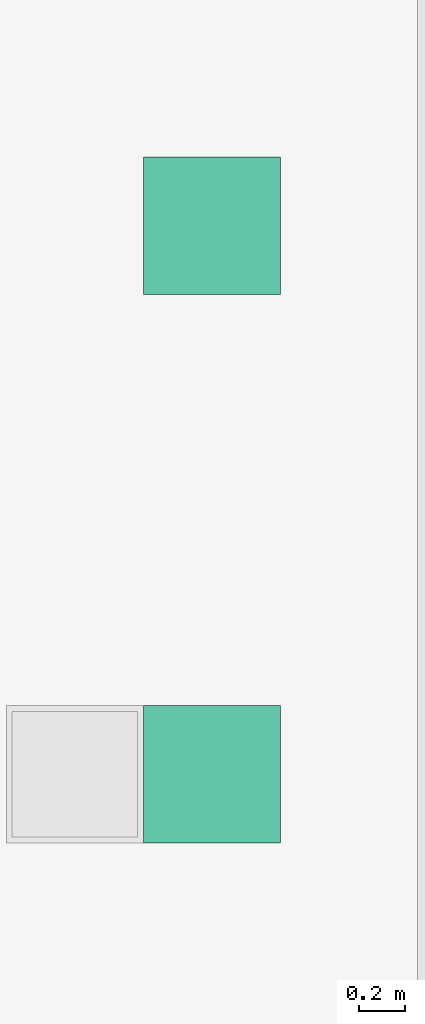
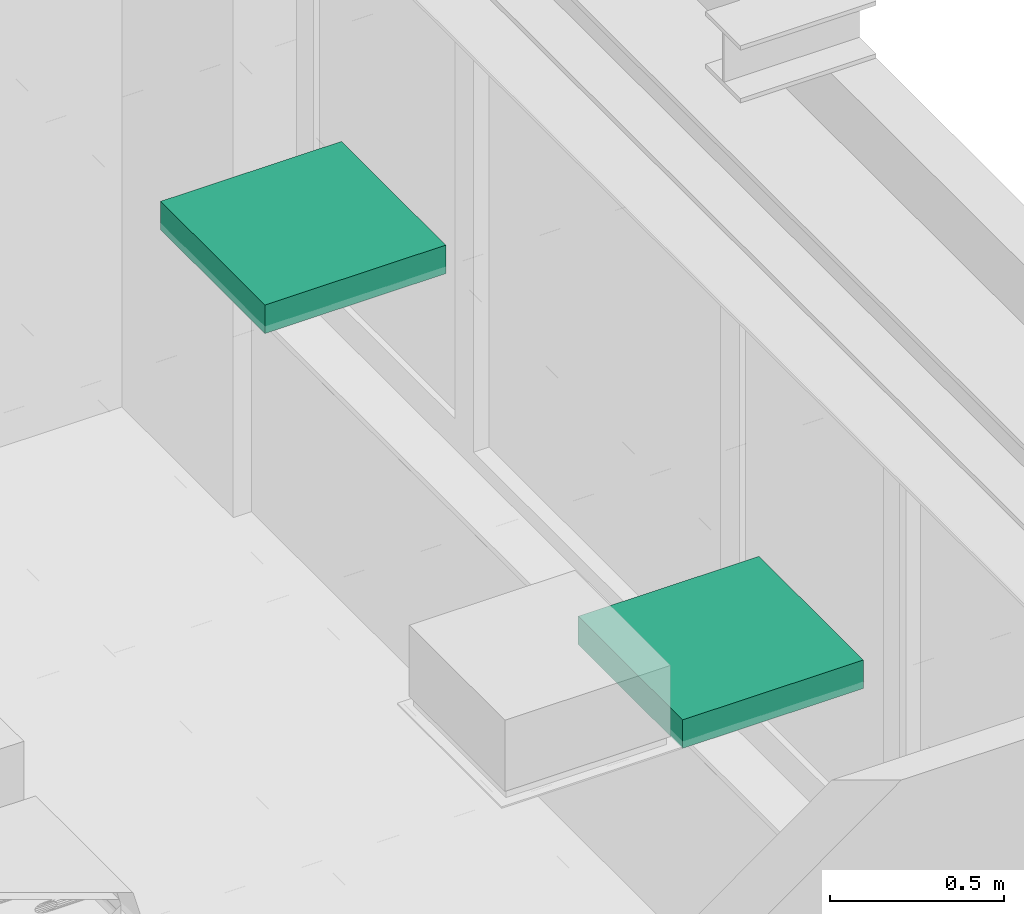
# One storey, part 298 of 347: 2 flow terminals.
"""IFC2X3 building model written with IfcOpenShell, lengths in millimetres."""

import ifcopenshell
import ifcopenshell.guid

model = None  # the IFC model being written
_history = None  # IfcOwnerHistory: only IFC2X3 demands one
_inside = {}  # id of a spatial element -> (the spatial element, [elements in it])
_under = {}  # id of a project, library or spatial element -> (it, [spatial elements below it])
_declared = {}  # id of a project -> (the project, [libraries it declares])
_typed = {}  # id of a type object -> (the type object, [elements of that type])
_made_of = {}  # id of a material, layer set ... -> (it, [elements and type objects made of it])


def new_model(schema):
    """Start an empty IFC model of exactly this schema.

    Asked for "IFC4X3", IfcOpenShell would pick the latest addendum, in which some entities
    have other attributes; the version numbers below select the first issue.
    IFC2X3 requires an IfcOwnerHistory on every rooted entity: one is made here for all.
    """
    global model, _history
    if schema == "IFC4X3":
        model = ifcopenshell.file(schema_version=(4, 3, 0, 0))
    else:
        model = ifcopenshell.file(schema=schema)
    _inside.clear()
    _under.clear()
    _declared.clear()
    _typed.clear()
    _made_of.clear()
    _history = None
    if model.schema == "IFC2X3":
        org = make("IfcOrganization", Name="unknown")
        user = make(
            "IfcPersonAndOrganization",
            ThePerson=make("IfcPerson", FamilyName="unknown"),
            TheOrganization=org,
        )
        app = make(
            "IfcApplication",
            ApplicationDeveloper=org,
            Version="unknown",
            ApplicationFullName="unknown",
            ApplicationIdentifier="unknown",
        )
        _history = make(
            "IfcOwnerHistory",
            OwningUser=user,
            OwningApplication=app,
            ChangeAction="ADDED",
            CreationDate=0,
        )
    return model


def make(cls, **values):
    """One entity of the class cls with the attributes given. An attribute that is None is left unset."""
    return model.create_entity(
        cls, **{name: value for name, value in values.items() if value is not None}
    )


def entity(cls, *values):
    """Any entity or typed value of the class cls, its attributes in the order of the schema. None: left unset."""
    e = model.create_entity(cls)
    for i, value in enumerate(values):
        if value is not None:
            e[i] = value
    return e


def rooted(cls, **values):
    """An entity with a GlobalId (a new one), such as an element, a storey or a relation."""
    return make(cls, GlobalId=ifcopenshell.guid.new(), OwnerHistory=_history, **values)


def si_unit(unit_type, name, prefix=None):
    """IfcSIUnit, for example si_unit("LENGTHUNIT", "METRE", prefix="MILLI")."""
    return make("IfcSIUnit", UnitType=unit_type, Prefix=prefix, Name=name)


def converted_unit(unit_type, name, factor, base, dimensions=None, offset=None):
    """IfcConversionBasedUnit, such as the inch: factor (a typed value) times the base unit."""
    return make(
        "IfcConversionBasedUnit"
        if offset is None
        else "IfcConversionBasedUnitWithOffset",
        ConversionOffset=offset,
        Dimensions=None
        if dimensions is None
        else entity("IfcDimensionalExponents", *dimensions),
        UnitType=unit_type,
        Name=name,
        ConversionFactor=make(
            "IfcMeasureWithUnit", ValueComponent=factor, UnitComponent=base
        ),
    )


def derived_unit(unit_type, elements):
    """IfcDerivedUnit: a product of units, each with its exponent."""
    return make(
        "IfcDerivedUnit",
        Elements=[
            make("IfcDerivedUnitElement", Unit=unit, Exponent=power)
            for unit, power in elements
        ],
        UnitType=unit_type,
    )


def money_unit(currency):
    """IfcMonetaryUnit."""
    return make("IfcMonetaryUnit", Currency=currency)


def assignment(units):
    """IfcUnitAssignment: the units of a project."""
    return None if units is None else make("IfcUnitAssignment", Units=units)


def point(xyz):
    """IfcCartesianPoint."""
    return None if xyz is None else make("IfcCartesianPoint", Coordinates=xyz)


def direction(xyz):
    """IfcDirection."""
    return None if xyz is None else make("IfcDirection", DirectionRatios=xyz)


def frame(location, z_axis=None, x_axis=None):
    """IfcAxis2Placement3D, a coordinate frame: its origin and axes. An axis left out is left unset."""
    return make(
        "IfcAxis2Placement3D",
        Location=point(location),
        Axis=direction(z_axis),
        RefDirection=direction(x_axis),
    )


def origin_with_axes():
    """The frame at (0, 0, 0) with the z axis (0, 0, 1) and the x axis (1, 0, 0) written out."""
    return frame((0.0, 0.0, 0.0), z_axis=(0.0, 0.0, 1.0), x_axis=(1.0, 0.0, 0.0))


def place(relative_to, where):
    """IfcLocalPlacement: puts the frame where relative to a parent placement (None: the world)."""
    return make(
        "IfcLocalPlacement", PlacementRelTo=relative_to, RelativePlacement=where
    )


def context(
    kind, dimensions, precision=None, world=None, true_north=None, identifier=None
):
    """IfcGeometricRepresentationContext, for example the 3D "Model" context."""
    return make(
        "IfcGeometricRepresentationContext",
        ContextIdentifier=identifier,
        ContextType=kind,
        CoordinateSpaceDimension=dimensions,
        Precision=precision,
        WorldCoordinateSystem=world,
        TrueNorth=true_north,
    )


def subcontext(parent, identifier, kind, view, scale=None):
    """IfcGeometricRepresentationSubContext, for example "Body" below "Model"."""
    return make(
        "IfcGeometricRepresentationSubContext",
        ContextIdentifier=identifier,
        ContextType=kind,
        ParentContext=parent,
        TargetScale=scale,
        TargetView=view,
    )


def project(units=None, contexts=None):
    """IfcProject with its units and contexts."""
    return rooted(
        "IfcProject",
        Name="project",
        RepresentationContexts=contexts,
        UnitsInContext=assignment(units),
    )


def spatial(cls, under=None, at=None, **own):
    """A site, building, storey or space (cls), placed at a placement, below another one or the project."""
    s = rooted(cls, ObjectPlacement=at, **own)
    if under is not None:
        _under.setdefault(under.id(), (under, []))[1].append(s)
    return s


def faces_of(points, faces, orient=None, outer=None):
    """IfcFace entities. A face is a list of loops; a loop is a list of indices into points, from 0.

    orient and outer hold one flag for each loop. By default every Orientation is true, the
    first loop of a face is its IfcFaceOuterBound and the others are IfcFaceBound.
    """
    made = []
    for i, loops in enumerate(faces):
        bounds = []
        for j, loop in enumerate(loops):
            is_outer = j == 0 if outer is None else outer[i][j]
            bounds.append(
                make(
                    "IfcFaceOuterBound" if is_outer else "IfcFaceBound",
                    Bound=make("IfcPolyLoop", Polygon=[points[k] for k in loop]),
                    Orientation=True if orient is None else orient[i][j],
                )
            )
        made.append(make("IfcFace", Bounds=bounds))
    return made


def open_shell(faces, orient=None, outer=None):
    """The faces of one IfcOpenShell. surface_model builds it on its shared points."""
    return ("IfcOpenShell", faces, orient, outer)


def faceted_brep(points, faces, orient=None, outer=None, voids=None):
    """IfcFacetedBrep: a solid bounded by flat faces; with voids (closed shells), ...WithVoids."""
    shared = [point(p) for p in points]
    hull = make("IfcClosedShell", CfsFaces=faces_of(shared, faces, orient, outer))
    if voids is None:
        return make("IfcFacetedBrep", Outer=hull)
    return make(
        "IfcFacetedBrepWithVoids",
        Outer=hull,
        Voids=[
            make(cls, CfsFaces=faces_of(shared, fs, o, b)) for cls, fs, o, b in voids
        ],
    )


def surface_model(cls, points, shells):
    """IfcFaceBasedSurfaceModel or IfcShellBasedSurfaceModel (cls): surfaces that need not close."""
    shared = [point(p) for p in points]
    made = [make(c, CfsFaces=faces_of(shared, fs, o, b)) for c, fs, o, b in shells]
    if cls == "IfcFaceBasedSurfaceModel":
        return make(cls, FbsmFaces=made)
    return make(cls, SbsmBoundary=made)


def shape(context_of_items, identifier, shape_type, items):
    """IfcShapeRepresentation: the items that make up one representation, for example the "Body"."""
    return make(
        "IfcShapeRepresentation",
        ContextOfItems=context_of_items,
        RepresentationIdentifier=identifier,
        RepresentationType=shape_type,
        Items=items,
    )


def source(mapping_origin, context_of_items, identifier, shape_type, items):
    """IfcRepresentationMap: a shape defined once, which mapped items show again and again."""
    return make(
        "IfcRepresentationMap",
        MappingOrigin=mapping_origin,
        MappedRepresentation=shape(context_of_items, identifier, shape_type, items),
    )


def transform(
    local_origin,
    x_axis=None,
    y_axis=None,
    z_axis=None,
    scale=None,
    scale2=None,
    scale3=None,
    uniform=True,
):
    """IfcCartesianTransformationOperator3D, or its non-uniform kind. x_axis, y_axis, z_axis: its Axis1, 2, 3."""
    if uniform:
        return make(
            "IfcCartesianTransformationOperator3D",
            Axis1=direction(x_axis),
            Axis2=direction(y_axis),
            LocalOrigin=point(local_origin),
            Scale=scale,
            Axis3=direction(z_axis),
        )
    return make(
        "IfcCartesianTransformationOperator3DnonUniform",
        Axis1=direction(x_axis),
        Axis2=direction(y_axis),
        LocalOrigin=point(local_origin),
        Scale=scale,
        Axis3=direction(z_axis),
        Scale2=scale2,
        Scale3=scale3,
    )


def mapped(mapping_source, mapping_target):
    """IfcMappedItem: shows the shape of a source again, moved by a transform."""
    return make(
        "IfcMappedItem", MappingSource=mapping_source, MappingTarget=mapping_target
    )


def made_of(thing, what):
    """Note that an element or type object is made of a material, layer set ...; save() writes the relation."""
    if what is not None:
        _made_of.setdefault(what.id(), (what, []))[1].append(thing)
    return thing


def type_object(cls, material=None, **own):
    """A type object (cls), such as IfcWallType, which elements share."""
    return made_of(rooted(cls, **own), material)


def type_shapes(of_type, sources):
    """Give a type object the sources (RepresentationMaps) that its elements show as mapped items."""
    of_type.RepresentationMaps = sources


def element(
    cls,
    number,
    at=None,
    inside=None,
    cuts=None,
    type_object=None,
    material=None,
    context=None,
    identifier="Body",
    shape_type=None,
    held_by="IfcProductDefinitionShape",
    body=None,
    shapes=None,
    **own,
):
    """One element of the class cls, such as IfcWall. Its Tag is "e" and its number.

    at: its placement. inside: the storey or other place that contains it. cuts: it is an
    opening in that element (IfcRelVoidsElement). A single representation is given by context,
    identifier, shape_type and body (its items); several are given by shapes. held_by: the class
    of the entity that holds the representations. save() writes the other relations.
    """
    e = rooted(cls, Tag="e%d" % number, ObjectPlacement=at, **own)
    if body is not None:
        shapes = [shape(context, identifier, shape_type, body)]
    if shapes is not None:
        e.Representation = make(held_by, Representations=shapes)
    if inside is not None:
        _inside.setdefault(inside.id(), (inside, []))[1].append(e)
    if cuts is not None:
        rooted(
            "IfcRelVoidsElement", RelatingBuildingElement=cuts, RelatedOpeningElement=e
        )
    if type_object is not None:
        _typed.setdefault(type_object.id(), (type_object, []))[1].append(e)
    return made_of(e, material)


def aggregate(whole, parts):
    """IfcRelAggregates: a whole, such as a stair, and the parts it consists of."""
    return rooted("IfcRelAggregates", RelatingObject=whole, RelatedObjects=parts)


def save(model, path):
    """Write the relations noted so far, then the file.

    IfcRelAggregates (storeys below a building ...), IfcRelContainedInSpatialStructure (elements
    in a storey), IfcRelDefinesByType, IfcRelAssociatesMaterial and IfcRelDeclares: one each for
    every whole, place, type object, material and project.
    """
    for whole, parts in _under.values():
        aggregate(whole, parts)
    for where, things in _inside.values():
        rooted(
            "IfcRelContainedInSpatialStructure",
            RelatedElements=things,
            RelatingStructure=where,
        )
    for kind, things in _typed.values():
        rooted("IfcRelDefinesByType", RelatedObjects=things, RelatingType=kind)
    for what, things in _made_of.values():
        rooted("IfcRelAssociatesMaterial", RelatedObjects=things, RelatingMaterial=what)
    for by, libraries in _declared.values():
        rooted("IfcRelDeclares", RelatingContext=by, RelatedDefinitions=libraries)
    model.write(path)


model = new_model("IFC2X3")

# Units and contexts
model_context = context("Model", 3, precision=0.01, world=origin_with_axes(), true_north=direction((0.0, 1.0)))
plan_context = context("Plan", 3, precision=0.01, world=origin_with_axes(), true_north=direction((0.0, 1.0)))
body_context = subcontext(model_context, "Body", "Model", "MODEL_VIEW")
ifc_project = project(units=[si_unit("LENGTHUNIT", "METRE", prefix="MILLI"), si_unit("AREAUNIT", "SQUARE_METRE"), si_unit("VOLUMEUNIT", "CUBIC_METRE"), converted_unit("PLANEANGLEUNIT", "DEGREE", entity("IfcPlaneAngleMeasure", 0.0174532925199), si_unit("PLANEANGLEUNIT", "RADIAN"), dimensions=[0, 0, 0, 0, 0, 0, 0]), money_unit("EUR"), converted_unit("TIMEUNIT", "Year", entity("IfcTimeMeasure", 31556926.0), si_unit("TIMEUNIT", "SECOND"), dimensions=[0, 0, 1, 0, 0, 0, 0]), si_unit("MASSUNIT", "GRAM", prefix="KILO"), si_unit("THERMODYNAMICTEMPERATUREUNIT", "DEGREE_CELSIUS"), si_unit("LUMINOUSINTENSITYUNIT", "LUMEN"), si_unit("ENERGYUNIT", "JOULE", prefix="MEGA"), derived_unit("THERMALCONDUCTANCEUNIT", [(si_unit("POWERUNIT", "WATT"), 1), (si_unit("LENGTHUNIT", "METRE"), -1), (si_unit("THERMODYNAMICTEMPERATUREUNIT", "KELVIN"), -1)]), derived_unit("SPECIFICHEATCAPACITYUNIT", [(si_unit("ENERGYUNIT", "JOULE"), 1), (si_unit("MASSUNIT", "GRAM", prefix="KILO"), -1), (si_unit("THERMODYNAMICTEMPERATUREUNIT", "KELVIN"), -1)]), derived_unit("MASSDENSITYUNIT", [(si_unit("MASSUNIT", "GRAM", prefix="KILO"), 1), (si_unit("VOLUMEUNIT", "CUBIC_METRE"), -1)])], contexts=[model_context, plan_context])

# Site, building, storey
site_placement = place(None, origin_with_axes())
site = spatial("IfcSite", under=ifc_project, at=site_placement, Name="Site", CompositionType="ELEMENT")
building_placement = place(site_placement, origin_with_axes())
building = spatial("IfcBuilding", under=site, at=building_placement, Name="Naam gebouw", CompositionType="ELEMENT")
storey_placement = place(building_placement, origin_with_axes())
storey = spatial("IfcBuildingStorey", under=building, at=storey_placement, Name="begane grond", CompositionType="ELEMENT", Elevation=0.0)

# Flow terminals
lamp_type = type_object("IfcLampType", Name="TL plafond 25", PredefinedType="NOTDEFINED")
shared_shape = source(origin_with_axes(), body_context, "Body", "SurfaceModel", [
    faceted_brep([(0.0, 0.0, -100.0), (0.0, 0.0, 0.0), (-600.0, 0.0, 0.0), (-600.0, 0.0, -100.0), (0.0, 600.0, -100.0), (0.0, 600.0, 0.0), (-600.0, 600.0, 0.0), (-40.0, 40.0, 0.0), (-560.0, 40.0, 0.0), (-560.0, 560.0, 0.0), (-40.0, 560.0, 0.0), (-600.0, 600.0, -100.0), (-40.0, 40.0, -100.0), (-40.0, 560.0, -100.0), (-560.0, 560.0, -100.0), (-560.0, 40.0, -100.0)], [[[0, 1, 2, 3]], [[4, 5, 1, 0]], [[1, 5, 6, 2], [7, 8, 9, 10]], [[3, 2, 6, 11]], [[0, 3, 11, 4], [12, 13, 14, 15]], [[11, 6, 5, 4]], [[15, 8, 7, 12]], [[14, 9, 8, 15]], [[13, 10, 9, 14]], [[12, 7, 10, 13]]]),
    faceted_brep([(-40.0, 40.0, -16.3333333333), (-40.0, 40.0, 0.0), (-560.0, 40.0, 0.0), (-560.0, 40.0, -16.3333333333), (-40.0, 560.0, -16.3333333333), (-40.0, 560.0, 0.0), (-560.0, 560.0, 0.0), (-560.0, 560.0, -16.3333333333)], [[[0, 1, 2, 3]], [[4, 5, 1, 0]], [[1, 5, 6, 2]], [[3, 2, 6, 7]], [[0, 3, 7, 4]], [[7, 6, 5, 4]]]),
    surface_model("IfcShellBasedSurfaceModel", [(-559.0, 41.0, -100.0), (-559.0, 559.0, -100.0), (-40.0, 559.0, -100.0), (-40.0, 41.0, -100.0)], [open_shell([[[0, 1, 2, 3]]])]),
    faceted_brep([(-40.0, 40.0, -100.0), (-40.0, 40.0, -60.0), (-560.0, 40.0, -60.0), (-560.0, 40.0, -100.0), (-40.0, 560.0, -100.0), (-40.0, 560.0, -60.0), (-560.0, 560.0, -60.0), (-41.0, 41.0, -60.0), (-559.0, 41.0, -60.0), (-559.0, 559.0, -60.0), (-41.0, 559.0, -60.0), (-560.0, 560.0, -100.0), (-41.0, 41.0, -100.0), (-41.0, 559.0, -100.0), (-559.0, 559.0, -100.0), (-559.0, 41.0, -100.0)], [[[0, 1, 2, 3]], [[4, 5, 1, 0]], [[1, 5, 6, 2], [7, 8, 9, 10]], [[3, 2, 6, 11]], [[0, 3, 11, 4], [12, 13, 14, 15]], [[11, 6, 5, 4]], [[15, 8, 7, 12]], [[14, 9, 8, 15]], [[13, 10, 9, 14]], [[12, 7, 10, 13]]]),
    faceted_brep([(-40.0, 144.0, -48.3333333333), (-560.0, 144.0, -48.3333333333), (-560.0, 149.740251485, -47.191526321), (-40.0, 149.740251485, -47.191526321), (-40.0, 138.259748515, -47.191526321), (-560.0, 138.259748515, -47.191526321), (-560.0, 133.393398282, -43.9399350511), (-560.0, 130.141807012, -39.0735848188), (-560.0, 129.0, -33.3333333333), (-560.0, 130.141807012, -27.5930818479), (-560.0, 133.393398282, -22.7267316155), (-560.0, 138.259748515, -19.4751403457), (-560.0, 144.0, -18.3333333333), (-560.0, 149.740251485, -19.4751403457), (-560.0, 154.606601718, -22.7267316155), (-560.0, 157.858192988, -27.5930818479), (-560.0, 159.0, -33.3333333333), (-560.0, 157.858192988, -39.0735848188), (-560.0, 154.606601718, -43.9399350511), (-560.0, 144.0, -46.3333333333), (-560.0, 148.974884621, -45.343767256), (-560.0, 153.192388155, -42.5257214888), (-560.0, 156.010433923, -38.3082179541), (-560.0, 157.0, -33.3333333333), (-560.0, 156.010433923, -28.3584487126), (-560.0, 153.192388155, -24.1409451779), (-560.0, 148.974884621, -21.3228994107), (-560.0, 144.0, -20.3333333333), (-560.0, 139.025115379, -21.3228994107), (-560.0, 134.807611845, -24.1409451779), (-560.0, 131.989566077, -28.3584487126), (-560.0, 131.0, -33.3333333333), (-560.0, 131.989566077, -38.3082179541), (-560.0, 134.807611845, -42.5257214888), (-560.0, 139.025115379, -45.343767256), (-40.0, 154.606601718, -43.9399350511), (-40.0, 157.858192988, -39.0735848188), (-40.0, 159.0, -33.3333333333), (-40.0, 157.858192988, -27.5930818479), (-40.0, 154.606601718, -22.7267316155), (-40.0, 149.740251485, -19.4751403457), (-40.0, 144.0, -18.3333333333), (-40.0, 138.259748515, -19.4751403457), (-40.0, 133.393398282, -22.7267316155), (-40.0, 130.141807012, -27.5930818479), (-40.0, 129.0, -33.3333333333), (-40.0, 130.141807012, -39.0735848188), (-40.0, 133.393398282, -43.9399350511), (-40.0, 144.0, -46.3333333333), (-40.0, 139.025115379, -45.343767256), (-40.0, 134.807611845, -42.5257214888), (-40.0, 131.989566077, -38.3082179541), (-40.0, 131.0, -33.3333333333), (-40.0, 131.989566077, -28.3584487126), (-40.0, 134.807611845, -24.1409451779), (-40.0, 139.025115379, -21.3228994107), (-40.0, 144.0, -20.3333333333), (-40.0, 148.974884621, -21.3228994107), (-40.0, 153.192388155, -24.1409451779), (-40.0, 156.010433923, -28.3584487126), (-40.0, 157.0, -33.3333333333), (-40.0, 156.010433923, -38.3082179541), (-40.0, 153.192388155, -42.5257214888), (-40.0, 148.974884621, -45.343767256)], [[[0, 1, 2, 3]], [[4, 5, 1, 0]], [[1, 5, 6, 7, 8, 9, 10, 11, 12, 13, 14, 15, 16, 17, 18, 2], [19, 20, 21, 22, 23, 24, 25, 26, 27, 28, 29, 30, 31, 32, 33, 34]], [[3, 2, 18, 35]], [[0, 3, 35, 36, 37, 38, 39, 40, 41, 42, 43, 44, 45, 46, 47, 4], [48, 49, 50, 51, 52, 53, 54, 55, 56, 57, 58, 59, 60, 61, 62, 63]], [[47, 6, 5, 4]], [[46, 7, 6, 47]], [[45, 8, 7, 46]], [[44, 9, 8, 45]], [[43, 10, 9, 44]], [[42, 11, 10, 43]], [[41, 12, 11, 42]], [[40, 13, 12, 41]], [[39, 14, 13, 40]], [[38, 15, 14, 39]], [[37, 16, 15, 38]], [[36, 17, 16, 37]], [[35, 18, 17, 36]], [[63, 20, 19, 48]], [[62, 21, 20, 63]], [[61, 22, 21, 62]], [[60, 23, 22, 61]], [[59, 24, 23, 60]], [[58, 25, 24, 59]], [[57, 26, 25, 58]], [[56, 27, 26, 57]], [[55, 28, 27, 56]], [[54, 29, 28, 55]], [[53, 30, 29, 54]], [[52, 31, 30, 53]], [[51, 32, 31, 52]], [[50, 33, 32, 51]], [[49, 34, 33, 50]], [[48, 19, 34, 49]]]),
    faceted_brep([(-40.0, 248.0, -48.3333333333), (-560.0, 248.0, -48.3333333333), (-560.0, 253.740251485, -47.191526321), (-40.0, 253.740251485, -47.191526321), (-40.0, 242.259748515, -47.191526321), (-560.0, 242.259748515, -47.191526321), (-560.0, 237.393398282, -43.9399350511), (-560.0, 234.141807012, -39.0735848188), (-560.0, 233.0, -33.3333333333), (-560.0, 234.141807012, -27.5930818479), (-560.0, 237.393398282, -22.7267316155), (-560.0, 242.259748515, -19.4751403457), (-560.0, 248.0, -18.3333333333), (-560.0, 253.740251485, -19.4751403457), (-560.0, 258.606601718, -22.7267316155), (-560.0, 261.858192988, -27.5930818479), (-560.0, 263.0, -33.3333333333), (-560.0, 261.858192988, -39.0735848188), (-560.0, 258.606601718, -43.9399350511), (-560.0, 248.0, -46.3333333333), (-560.0, 252.974884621, -45.343767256), (-560.0, 257.192388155, -42.5257214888), (-560.0, 260.010433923, -38.3082179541), (-560.0, 261.0, -33.3333333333), (-560.0, 260.010433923, -28.3584487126), (-560.0, 257.192388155, -24.1409451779), (-560.0, 252.974884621, -21.3228994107), (-560.0, 248.0, -20.3333333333), (-560.0, 243.025115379, -21.3228994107), (-560.0, 238.807611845, -24.1409451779), (-560.0, 235.989566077, -28.3584487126), (-560.0, 235.0, -33.3333333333), (-560.0, 235.989566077, -38.3082179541), (-560.0, 238.807611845, -42.5257214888), (-560.0, 243.025115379, -45.343767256), (-40.0, 258.606601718, -43.9399350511), (-40.0, 261.858192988, -39.0735848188), (-40.0, 263.0, -33.3333333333), (-40.0, 261.858192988, -27.5930818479), (-40.0, 258.606601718, -22.7267316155), (-40.0, 253.740251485, -19.4751403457), (-40.0, 248.0, -18.3333333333), (-40.0, 242.259748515, -19.4751403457), (-40.0, 237.393398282, -22.7267316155), (-40.0, 234.141807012, -27.5930818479), (-40.0, 233.0, -33.3333333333), (-40.0, 234.141807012, -39.0735848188), (-40.0, 237.393398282, -43.9399350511), (-40.0, 248.0, -46.3333333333), (-40.0, 243.025115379, -45.343767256), (-40.0, 238.807611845, -42.5257214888), (-40.0, 235.989566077, -38.3082179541), (-40.0, 235.0, -33.3333333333), (-40.0, 235.989566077, -28.3584487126), (-40.0, 238.807611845, -24.1409451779), (-40.0, 243.025115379, -21.3228994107), (-40.0, 248.0, -20.3333333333), (-40.0, 252.974884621, -21.3228994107), (-40.0, 257.192388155, -24.1409451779), (-40.0, 260.010433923, -28.3584487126), (-40.0, 261.0, -33.3333333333), (-40.0, 260.010433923, -38.3082179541), (-40.0, 257.192388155, -42.5257214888), (-40.0, 252.974884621, -45.343767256)], [[[0, 1, 2, 3]], [[4, 5, 1, 0]], [[1, 5, 6, 7, 8, 9, 10, 11, 12, 13, 14, 15, 16, 17, 18, 2], [19, 20, 21, 22, 23, 24, 25, 26, 27, 28, 29, 30, 31, 32, 33, 34]], [[3, 2, 18, 35]], [[0, 3, 35, 36, 37, 38, 39, 40, 41, 42, 43, 44, 45, 46, 47, 4], [48, 49, 50, 51, 52, 53, 54, 55, 56, 57, 58, 59, 60, 61, 62, 63]], [[47, 6, 5, 4]], [[46, 7, 6, 47]], [[45, 8, 7, 46]], [[44, 9, 8, 45]], [[43, 10, 9, 44]], [[42, 11, 10, 43]], [[41, 12, 11, 42]], [[40, 13, 12, 41]], [[39, 14, 13, 40]], [[38, 15, 14, 39]], [[37, 16, 15, 38]], [[36, 17, 16, 37]], [[35, 18, 17, 36]], [[63, 20, 19, 48]], [[62, 21, 20, 63]], [[61, 22, 21, 62]], [[60, 23, 22, 61]], [[59, 24, 23, 60]], [[58, 25, 24, 59]], [[57, 26, 25, 58]], [[56, 27, 26, 57]], [[55, 28, 27, 56]], [[54, 29, 28, 55]], [[53, 30, 29, 54]], [[52, 31, 30, 53]], [[51, 32, 31, 52]], [[50, 33, 32, 51]], [[49, 34, 33, 50]], [[48, 19, 34, 49]]]),
    faceted_brep([(-40.0, 352.0, -48.3333333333), (-560.0, 352.0, -48.3333333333), (-560.0, 357.740251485, -47.191526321), (-40.0, 357.740251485, -47.191526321), (-40.0, 346.259748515, -47.191526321), (-560.0, 346.259748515, -47.191526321), (-560.0, 341.393398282, -43.9399350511), (-560.0, 338.141807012, -39.0735848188), (-560.0, 337.0, -33.3333333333), (-560.0, 338.141807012, -27.5930818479), (-560.0, 341.393398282, -22.7267316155), (-560.0, 346.259748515, -19.4751403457), (-560.0, 352.0, -18.3333333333), (-560.0, 357.740251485, -19.4751403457), (-560.0, 362.606601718, -22.7267316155), (-560.0, 365.858192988, -27.5930818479), (-560.0, 367.0, -33.3333333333), (-560.0, 365.858192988, -39.0735848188), (-560.0, 362.606601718, -43.9399350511), (-560.0, 352.0, -46.3333333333), (-560.0, 356.974884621, -45.343767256), (-560.0, 361.192388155, -42.5257214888), (-560.0, 364.010433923, -38.3082179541), (-560.0, 365.0, -33.3333333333), (-560.0, 364.010433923, -28.3584487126), (-560.0, 361.192388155, -24.1409451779), (-560.0, 356.974884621, -21.3228994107), (-560.0, 352.0, -20.3333333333), (-560.0, 347.025115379, -21.3228994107), (-560.0, 342.807611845, -24.1409451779), (-560.0, 339.989566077, -28.3584487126), (-560.0, 339.0, -33.3333333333), (-560.0, 339.989566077, -38.3082179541), (-560.0, 342.807611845, -42.5257214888), (-560.0, 347.025115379, -45.343767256), (-40.0, 362.606601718, -43.9399350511), (-40.0, 365.858192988, -39.0735848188), (-40.0, 367.0, -33.3333333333), (-40.0, 365.858192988, -27.5930818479), (-40.0, 362.606601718, -22.7267316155), (-40.0, 357.740251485, -19.4751403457), (-40.0, 352.0, -18.3333333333), (-40.0, 346.259748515, -19.4751403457), (-40.0, 341.393398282, -22.7267316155), (-40.0, 338.141807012, -27.5930818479), (-40.0, 337.0, -33.3333333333), (-40.0, 338.141807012, -39.0735848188), (-40.0, 341.393398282, -43.9399350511), (-40.0, 352.0, -46.3333333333), (-40.0, 347.025115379, -45.343767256), (-40.0, 342.807611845, -42.5257214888), (-40.0, 339.989566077, -38.3082179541), (-40.0, 339.0, -33.3333333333), (-40.0, 339.989566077, -28.3584487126), (-40.0, 342.807611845, -24.1409451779), (-40.0, 347.025115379, -21.3228994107), (-40.0, 352.0, -20.3333333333), (-40.0, 356.974884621, -21.3228994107), (-40.0, 361.192388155, -24.1409451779), (-40.0, 364.010433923, -28.3584487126), (-40.0, 365.0, -33.3333333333), (-40.0, 364.010433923, -38.3082179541), (-40.0, 361.192388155, -42.5257214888), (-40.0, 356.974884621, -45.343767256)], [[[0, 1, 2, 3]], [[4, 5, 1, 0]], [[1, 5, 6, 7, 8, 9, 10, 11, 12, 13, 14, 15, 16, 17, 18, 2], [19, 20, 21, 22, 23, 24, 25, 26, 27, 28, 29, 30, 31, 32, 33, 34]], [[3, 2, 18, 35]], [[0, 3, 35, 36, 37, 38, 39, 40, 41, 42, 43, 44, 45, 46, 47, 4], [48, 49, 50, 51, 52, 53, 54, 55, 56, 57, 58, 59, 60, 61, 62, 63]], [[47, 6, 5, 4]], [[46, 7, 6, 47]], [[45, 8, 7, 46]], [[44, 9, 8, 45]], [[43, 10, 9, 44]], [[42, 11, 10, 43]], [[41, 12, 11, 42]], [[40, 13, 12, 41]], [[39, 14, 13, 40]], [[38, 15, 14, 39]], [[37, 16, 15, 38]], [[36, 17, 16, 37]], [[35, 18, 17, 36]], [[63, 20, 19, 48]], [[62, 21, 20, 63]], [[61, 22, 21, 62]], [[60, 23, 22, 61]], [[59, 24, 23, 60]], [[58, 25, 24, 59]], [[57, 26, 25, 58]], [[56, 27, 26, 57]], [[55, 28, 27, 56]], [[54, 29, 28, 55]], [[53, 30, 29, 54]], [[52, 31, 30, 53]], [[51, 32, 31, 52]], [[50, 33, 32, 51]], [[49, 34, 33, 50]], [[48, 19, 34, 49]]]),
    faceted_brep([(-40.0, 456.0, -48.3333333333), (-560.0, 456.0, -48.3333333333), (-560.0, 461.740251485, -47.191526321), (-40.0, 461.740251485, -47.191526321), (-40.0, 450.259748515, -47.191526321), (-560.0, 450.259748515, -47.191526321), (-560.0, 445.393398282, -43.9399350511), (-560.0, 442.141807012, -39.0735848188), (-560.0, 441.0, -33.3333333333), (-560.0, 442.141807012, -27.5930818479), (-560.0, 445.393398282, -22.7267316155), (-560.0, 450.259748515, -19.4751403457), (-560.0, 456.0, -18.3333333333), (-560.0, 461.740251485, -19.4751403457), (-560.0, 466.606601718, -22.7267316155), (-560.0, 469.858192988, -27.5930818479), (-560.0, 471.0, -33.3333333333), (-560.0, 469.858192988, -39.0735848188), (-560.0, 466.606601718, -43.9399350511), (-560.0, 456.0, -46.3333333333), (-560.0, 460.974884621, -45.343767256), (-560.0, 465.192388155, -42.5257214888), (-560.0, 468.010433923, -38.3082179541), (-560.0, 469.0, -33.3333333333), (-560.0, 468.010433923, -28.3584487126), (-560.0, 465.192388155, -24.1409451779), (-560.0, 460.974884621, -21.3228994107), (-560.0, 456.0, -20.3333333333), (-560.0, 451.025115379, -21.3228994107), (-560.0, 446.807611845, -24.1409451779), (-560.0, 443.989566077, -28.3584487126), (-560.0, 443.0, -33.3333333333), (-560.0, 443.989566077, -38.3082179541), (-560.0, 446.807611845, -42.5257214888), (-560.0, 451.025115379, -45.343767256), (-40.0, 466.606601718, -43.9399350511), (-40.0, 469.858192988, -39.0735848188), (-40.0, 471.0, -33.3333333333), (-40.0, 469.858192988, -27.5930818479), (-40.0, 466.606601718, -22.7267316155), (-40.0, 461.740251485, -19.4751403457), (-40.0, 456.0, -18.3333333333), (-40.0, 450.259748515, -19.4751403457), (-40.0, 445.393398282, -22.7267316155), (-40.0, 442.141807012, -27.5930818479), (-40.0, 441.0, -33.3333333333), (-40.0, 442.141807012, -39.0735848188), (-40.0, 445.393398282, -43.9399350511), (-40.0, 456.0, -46.3333333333), (-40.0, 451.025115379, -45.343767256), (-40.0, 446.807611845, -42.5257214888), (-40.0, 443.989566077, -38.3082179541), (-40.0, 443.0, -33.3333333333), (-40.0, 443.989566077, -28.3584487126), (-40.0, 446.807611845, -24.1409451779), (-40.0, 451.025115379, -21.3228994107), (-40.0, 456.0, -20.3333333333), (-40.0, 460.974884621, -21.3228994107), (-40.0, 465.192388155, -24.1409451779), (-40.0, 468.010433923, -28.3584487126), (-40.0, 469.0, -33.3333333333), (-40.0, 468.010433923, -38.3082179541), (-40.0, 465.192388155, -42.5257214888), (-40.0, 460.974884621, -45.343767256)], [[[0, 1, 2, 3]], [[4, 5, 1, 0]], [[1, 5, 6, 7, 8, 9, 10, 11, 12, 13, 14, 15, 16, 17, 18, 2], [19, 20, 21, 22, 23, 24, 25, 26, 27, 28, 29, 30, 31, 32, 33, 34]], [[3, 2, 18, 35]], [[0, 3, 35, 36, 37, 38, 39, 40, 41, 42, 43, 44, 45, 46, 47, 4], [48, 49, 50, 51, 52, 53, 54, 55, 56, 57, 58, 59, 60, 61, 62, 63]], [[47, 6, 5, 4]], [[46, 7, 6, 47]], [[45, 8, 7, 46]], [[44, 9, 8, 45]], [[43, 10, 9, 44]], [[42, 11, 10, 43]], [[41, 12, 11, 42]], [[40, 13, 12, 41]], [[39, 14, 13, 40]], [[38, 15, 14, 39]], [[37, 16, 15, 38]], [[36, 17, 16, 37]], [[35, 18, 17, 36]], [[63, 20, 19, 48]], [[62, 21, 20, 63]], [[61, 22, 21, 62]], [[60, 23, 22, 61]], [[59, 24, 23, 60]], [[58, 25, 24, 59]], [[57, 26, 25, 58]], [[56, 27, 26, 57]], [[55, 28, 27, 56]], [[54, 29, 28, 55]], [[53, 30, 29, 54]], [[52, 31, 30, 53]], [[51, 32, 31, 52]], [[50, 33, 32, 51]], [[49, 34, 33, 50]], [[48, 19, 34, 49]]]),
])
type_shapes(lamp_type, [shared_shape])
for number, where, z_axis, x_axis, name in (
    (1, (54674.9999843, 42990.5011494, 3295.0), (0.0, 0.0, 1.0), (1.0, 0.0, 0.0), "63_Lamp-x"),
    (2, (54674.9999843, 40590.5011494, 3295.0), (0.0, 0.0, 1.0), (1.0, 0.0, 0.0), "63_Lamp-x"),
):
    element("IfcFlowTerminal", number, at=place(storey_placement, frame(where, z_axis=z_axis, x_axis=x_axis)), inside=storey, type_object=lamp_type, Name=name, ObjectType="Lamp", context=body_context, shape_type="MappedRepresentation", body=[
        mapped(shared_shape, transform((0.0, 0.0, 0.0))),
    ])

save(model, "model.ifc")
